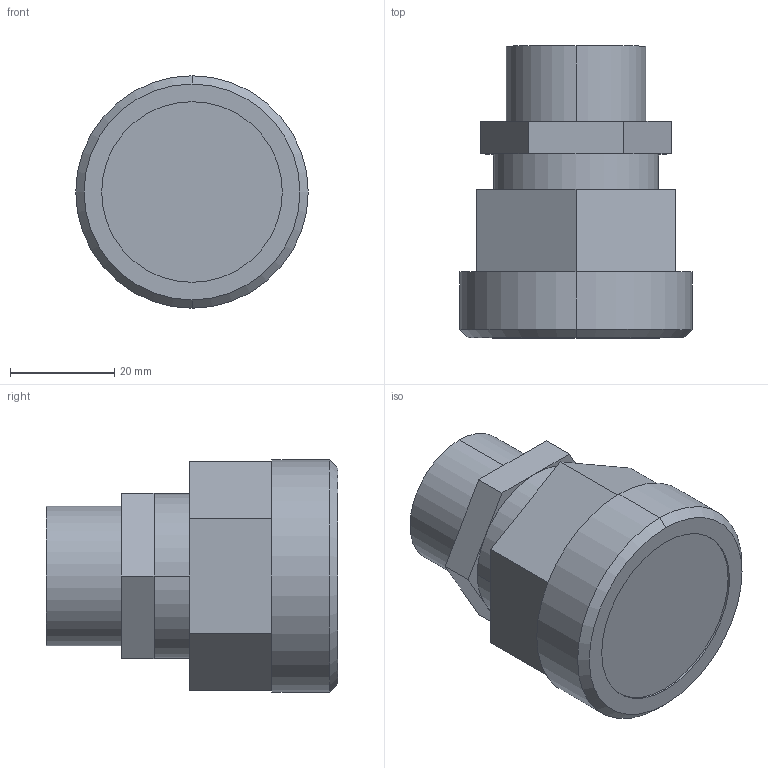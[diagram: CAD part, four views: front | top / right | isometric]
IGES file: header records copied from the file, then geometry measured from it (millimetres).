
Start section: SolidWorks IGES file using analytic representation for surfaces
Global section: file name: S:\Product Visuals\REVISED-60L-TOP-MOUNT-FITTINGS\IGS\top-straight-outlet-only\weldable\12-weldable-with-top-mount-adapter.IGS; native system: SolidWorks 2012; preprocessor: SolidWorks 2012; author: rachel.dressel; date: 121127.141704; units: inch
Bounding box: 44.7 x 56.11 x 44.7 mm (x, y, z)
Volume: 53601.1 mm3; surface area: 10559.1 mm2
Topology: 1 solids, 1 shells, 39 faces, 88 edges, 56 vertices
Faces by surface type: plane 25, revolution 14
